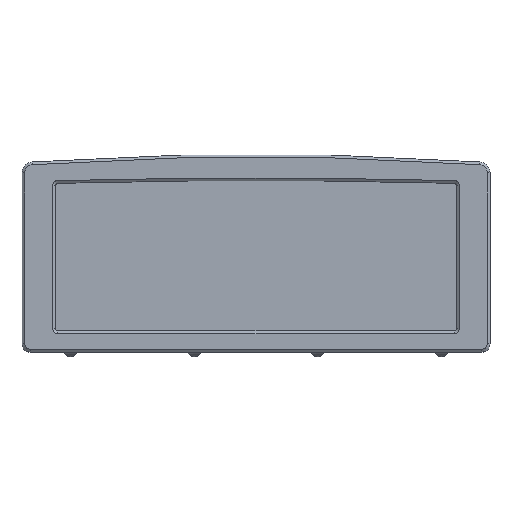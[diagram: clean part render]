
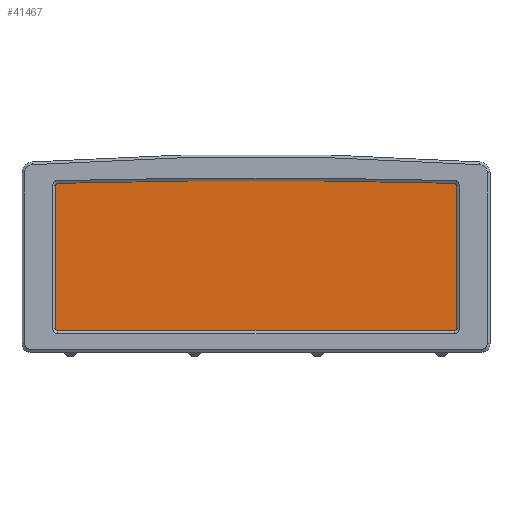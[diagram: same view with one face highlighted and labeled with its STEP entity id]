
A CAD part, top view. The second image highlights one B-rep face of the part: STEP entity #41467.
In plain terms, the highlighted planar face has unit normal (0, 0, 1).
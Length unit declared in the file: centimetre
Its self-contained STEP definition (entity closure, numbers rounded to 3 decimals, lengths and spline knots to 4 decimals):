
#980=PLANE('',#43327);
#1898=CIRCLE('',#43296,0.15);
#1899=CIRCLE('',#43298,537.8099);
#1900=CIRCLE('',#43300,0.15);
#1909=CIRCLE('',#43322,0.15);
#1910=CIRCLE('',#43325,0.15);
#5158=VECTOR('',#48330,1.);
#5181=VECTOR('',#48405,1.);
#5182=VECTOR('',#48411,1.);
#7941=LINE('',#60013,#5158);
#7964=LINE('',#60083,#5181);
#7965=LINE('',#60087,#5182);
#10755=VERTEX_POINT('',#60012);
#10756=VERTEX_POINT('',#60014);
#10757=VERTEX_POINT('',#60018);
#10758=VERTEX_POINT('',#60022);
#10759=VERTEX_POINT('',#60026);
#10771=VERTEX_POINT('',#60076);
#10772=VERTEX_POINT('',#60078);
#10773=VERTEX_POINT('',#60082);
#17003=EDGE_CURVE('',#10756,#10755,#7941,.T.);
#17006=EDGE_CURVE('',#10755,#10757,#1898,.T.);
#17008=EDGE_CURVE('',#10757,#10758,#1899,.T.);
#17010=EDGE_CURVE('',#10758,#10759,#1900,.T.);
#17035=EDGE_CURVE('',#10772,#10771,#1909,.T.);
#17038=EDGE_CURVE('',#10771,#10773,#7964,.T.);
#17039=EDGE_CURVE('',#10773,#10756,#1910,.T.);
#17040=EDGE_CURVE('',#10759,#10772,#7965,.T.);
#24170=ORIENTED_EDGE('',*,*,#17035,.T.);
#24171=ORIENTED_EDGE('',*,*,#17038,.T.);
#24172=ORIENTED_EDGE('',*,*,#17039,.T.);
#24173=ORIENTED_EDGE('',*,*,#17003,.T.);
#24174=ORIENTED_EDGE('',*,*,#17006,.T.);
#24175=ORIENTED_EDGE('',*,*,#17008,.T.);
#24176=ORIENTED_EDGE('',*,*,#17010,.T.);
#24177=ORIENTED_EDGE('',*,*,#17040,.T.);
#37432=EDGE_LOOP('',(#24170,#24171,#24172,#24173,#24174,#24175,#24176,#24177));
#39456=FACE_BOUND('',#37432,.T.);
#41467=ADVANCED_FACE('',(#39456),#980,.T.);
#43296=AXIS2_PLACEMENT_3D('',#60019,#48335,#48336);
#43298=AXIS2_PLACEMENT_3D('',#60023,#48340,#48341);
#43300=AXIS2_PLACEMENT_3D('',#60027,#48345,#48346);
#43322=AXIS2_PLACEMENT_3D('',#60077,#48400,#48401);
#43325=AXIS2_PLACEMENT_3D('',#60085,#48408,#48409);
#43327=AXIS2_PLACEMENT_3D('',#60088,#48412,$);
#48330=DIRECTION('',(0.,1.,0.));
#48335=DIRECTION('',(0.,0.,1.));
#48336=DIRECTION('',(0.15,0.,0.));
#48340=DIRECTION('',(0.,0.,1.));
#48341=DIRECTION('',(537.81,0.,0.));
#48345=DIRECTION('',(0.,0.,1.));
#48346=DIRECTION('',(0.15,0.,0.));
#48400=DIRECTION('',(0.,0.,1.));
#48401=DIRECTION('',(0.15,0.,0.));
#48405=DIRECTION('',(1.,0.,0.));
#48408=DIRECTION('',(0.,0.,1.));
#48409=DIRECTION('',(0.15,0.,0.));
#48411=DIRECTION('',(0.,-1.,0.));
#48412=DIRECTION('',(0.,0.,1.));
#60012=CARTESIAN_POINT('',(14.592,12.138,3.1));
#60013=CARTESIAN_POINT('',(14.592,1.688,3.1));
#60014=CARTESIAN_POINT('',(14.592,1.688,3.1));
#60018=CARTESIAN_POINT('',(14.446,12.2879,3.1));
#60019=CARTESIAN_POINT('',(14.442,12.138,3.1));
#60022=CARTESIAN_POINT('',(-14.446,12.2879,3.1));
#60023=CARTESIAN_POINT('',(0.,-525.3279,3.1));
#60026=CARTESIAN_POINT('',(-14.592,12.138,3.1));
#60027=CARTESIAN_POINT('',(-14.442,12.138,3.1));
#60076=CARTESIAN_POINT('',(-14.442,1.538,3.1));
#60077=CARTESIAN_POINT('',(-14.442,1.688,3.1));
#60078=CARTESIAN_POINT('',(-14.592,1.688,3.1));
#60082=CARTESIAN_POINT('',(14.442,1.538,3.1));
#60083=CARTESIAN_POINT('',(-14.442,1.538,3.1));
#60085=CARTESIAN_POINT('',(14.442,1.688,3.1));
#60087=CARTESIAN_POINT('',(-14.592,12.138,3.1));
#60088=CARTESIAN_POINT('',(0.,6.9555,3.1));
